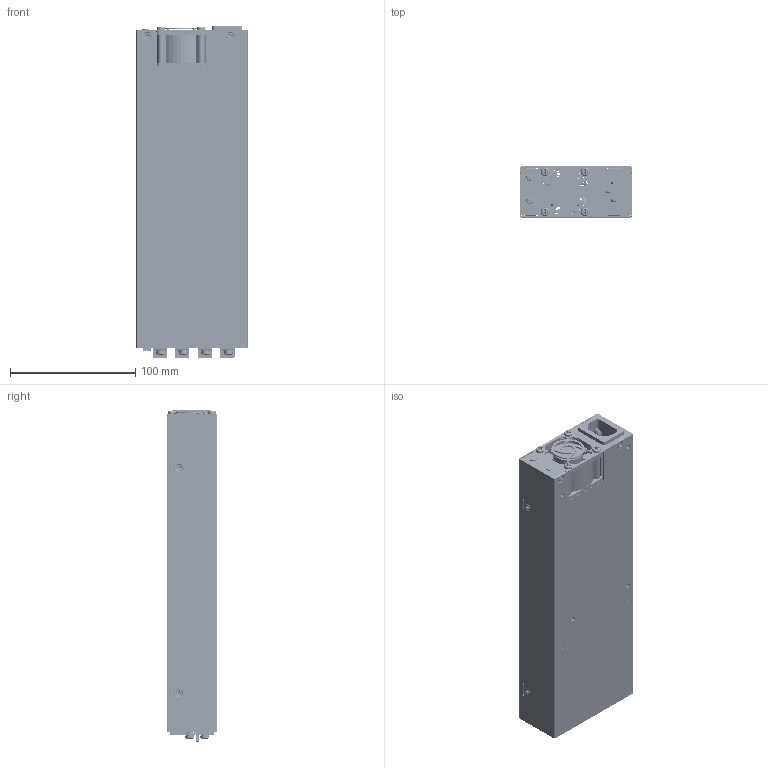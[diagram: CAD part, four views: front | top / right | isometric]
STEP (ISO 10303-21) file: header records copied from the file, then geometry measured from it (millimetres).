
FILE_DESCRIPTION((''),'2;1');
FILE_NAME('MEG-A1K2F4C_AA','2019-09-16T',('Kebang.Hou'),(''),'CREO PARAMETRIC BY PTC INC, 2015200','CREO PARAMETRIC BY PTC INC, 2015200','');
FILE_SCHEMA(('CONFIG_CONTROL_DESIGN'));
Products named in the file (118): CHASSIS_1-5872_1_1; STANDOFF_M3X4_1_1_1; STANDOFF_HOOK_1_1_1; BLOCK_1_1_1; RIVET_1_1_1; STANDOFF_HOOK__1_1_1; CHASSIS_1-5886_1_1; INSULATOR1_1_1_1; BOARD_1_1_1; NTC31_1_1_1; FB901_1_1_1; FB303_1_1_1; F401_1_1_1; MFC6X12P7_5V_ASM_1_1_1; F2_1_1_1; F1_1_1_1; CY2_1_1_1; CY1_1_1_1; IRA1251WR0-10P_ASM_1_1_1; CN901_1_1_1; DEFAULT-8993_1_1_1; DEFAULT-12407_1_1_1; MCN-2_54X2_54_10P_1_1_1; CN304_1_1_1; CN303_1_1_1; CN302_1_1_1; CN301_1_1_1; DEFAULT-2697_1_1_1; DEFAULT-4167_1_1_1; MCN-2_54X2_54_4P_1_1_1; CN7_1_1_1; CN6_1_1_1; CN5_1_1_1; CN4_1_1_1; C1_1_1_1; BD1_1_1_1; RL1_1_1_1; IC308_1_1_1; CY3_1_1_1; CY4_1_1_1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
Assembly tree (166 placements, depth 11):
  MEG-A1K2F4C_AA
    MEG-A1K2F4C_AA_1
      MEG-A1K2F4C_AA_1_1
        0_MEG-A1K2F4-AA_1_1_1
          MEG-A1K2F4C_AA_1_1_1
            CHASSIS_1-5886_1_1
              CHASSIS_1-5872_1_1
              STANDOFF_M3X4_1_1_1  x3
              STANDOFF_HOOK_1_1_1
              BLOCK_1_1_1
              RIVET_1_1_1  x2
              STANDOFF_HOOK__1_1_1
            INSULATOR1_1_1_1
            CONTROL_PFC_1_1_1
              MEG-A1K2F4T_AAR0C1_1_1_1
                PCB_1_1_1
                  BOARD_1_1_1
                  NTC31_1_1_1
                  FB901_1_1_1
                  FB303_1_1_1
                  F401_1_1_1
                  F2_1_1_1
                  F1_1_1_1
                  CY2_1_1_1
                  CY1_1_1_1
                  CN901_1_1_1
                  CN304_1_1_1
                  CN303_1_1_1
                  CN302_1_1_1
                  CN301_1_1_1
                  CN7_1_1_1
                  CN6_1_1_1
                  CN5_1_1_1
                  CN4_1_1_1
                  C1_1_1_1
                  BD1_1_1_1
                  RL1_1_1_1
                  IC308_1_1_1
                  CY3_1_1_1
                  CY4_1_1_1
                  CY5_1_1_1
                  CY6_1_1_1
                  ZD36_1_1_1
                  Q401_1_1_1
                  IC42_1_1_1
                  Q61_1_1_1
              CONTROL_PWB_1-66508_1_1
                CONTROL_PWB_1-66498_1_1
                A2008WR0-4P_1_1_1
                FPIN_1_1_1  x2
                878331051_1_1_1  x2
                A2003WR0-1BGX14PA-6T_1_1_1
                LED_LTL42TG6NH195_1_1_1  x2
              STANDOFF_1_1_1_1  x2
            COVER_1_1_1
            INSULATOR2_1_1_1
            3105465600_M3X5_1_1_1  x3
          MEG-A2K1PCS_AA_1_1_1
            PANEL_1-114011_1_1
              PANEL_1-114000_1_1
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Bounding box: 89.05 x 40.65 x 265.45 mm (x, y, z)
Volume: 184015 mm3; surface area: 420772.8 mm2
Topology: 225 solids, 287 shells, 13637 faces, 35936 edges, 23281 vertices
Faces by surface type: plane 9579, cylinder 3290, torus 317, cone 272, extrusion 87, bspline 68, sphere 24
Entity records: 190558 total; most frequent: CARTESIAN_POINT 33664, DIRECTION 28565, ORIENTED_EDGE 28110, EDGE_CURVE 14093, VECTOR 10183, LINE 10096, AXIS2_PLACEMENT_3D 9191, VERTEX_POINT 9145
